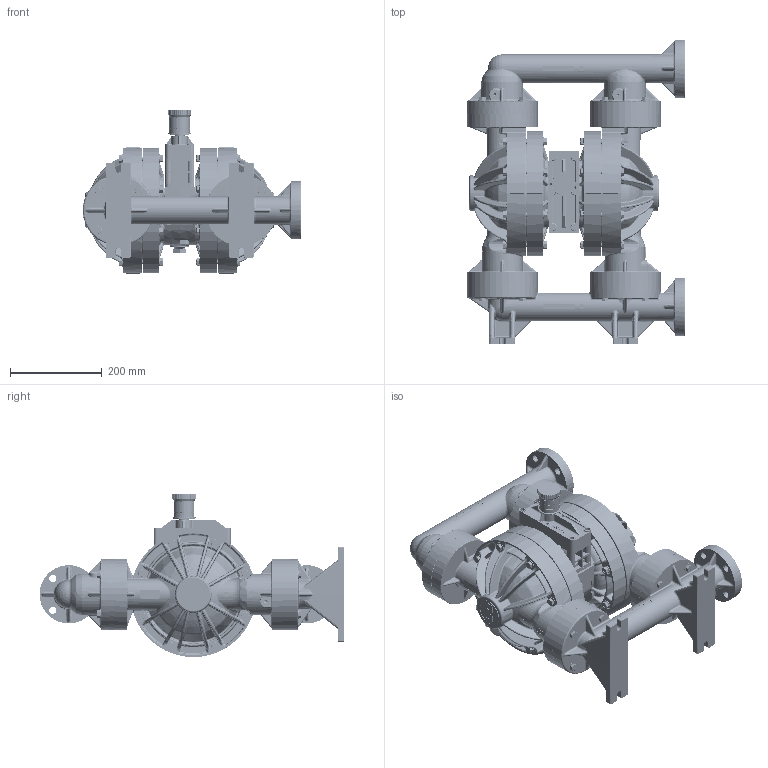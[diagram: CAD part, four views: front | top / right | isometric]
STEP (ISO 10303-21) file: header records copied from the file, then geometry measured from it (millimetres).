
FILE_DESCRIPTION (( 'STEP AP203' ), '1' );
FILE_NAME ('p400_advanced_plastic.STEP', '2022-08-05T10:25:06', ( '' ), ( '' ), 'SwSTEP 2.0', 'SolidWorks 2019', '' );
FILE_SCHEMA (( 'CONFIG_CONTROL_DESIGN' ));
Length unit declared in the file: inch
Products named in the file (1): p400_advanced_plastic
Bounding box: 476.35 x 664.11 x 355.47 mm (x, y, z)
Volume: 22501469.6 mm3; surface area: 1560217.6 mm2
Topology: 1 solids, 1 shells, 8482 faces, 20538 edges, 12359 vertices
Faces by surface type: bspline 2743, plane 2446, cylinder 1037, sphere 848, cone 836, torus 572
Entity records: 502473 total; most frequent: CARTESIAN_POINT 324445, ORIENTED_EDGE 41056, DIRECTION 32293, EDGE_CURVE 20528, AXIS2_PLACEMENT_3D 13041, VERTEX_POINT 12358, EDGE_LOOP 8848, ADVANCED_FACE 8482
